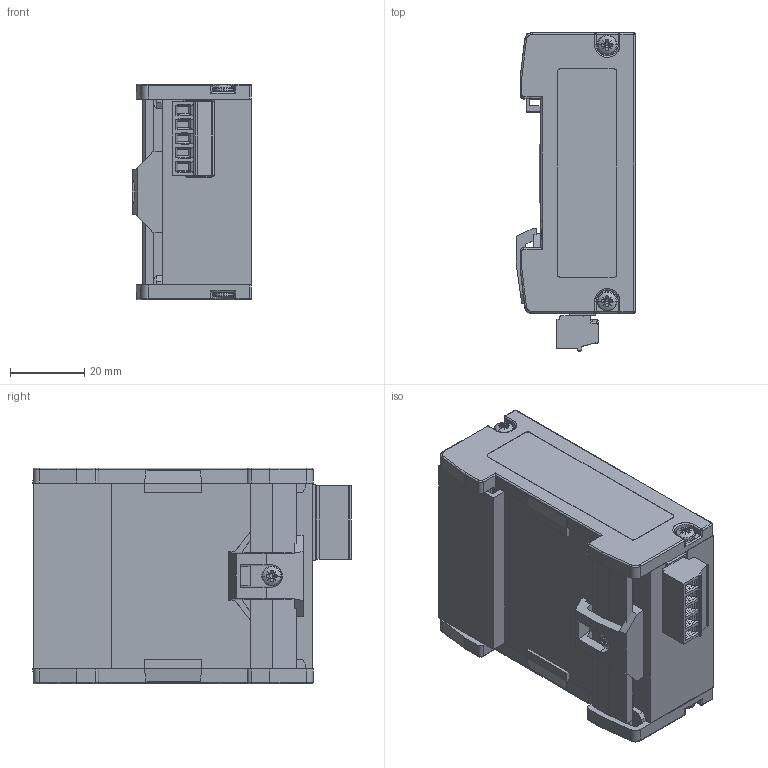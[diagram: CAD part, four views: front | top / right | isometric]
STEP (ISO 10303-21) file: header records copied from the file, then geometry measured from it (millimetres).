
FILE_DESCRIPTION(('FreeCAD Model'),'2;1');
FILE_NAME('C:/Users/bruenen/Desktop/700-875-WAN01 V00.step', '2016-12-14T16:23:39',('Author'),(''), 'Open CASCADE STEP processor 7.0','FreeCAD','Unknown');
FILE_SCHEMA(('AUTOMOTIVE_DESIGN_CC2 { 1 2 10303 214 -1 1 5 4 }'));
Length unit declared in the file: millimetre
Products named in the file (494): ASSEMBLY; Aluprofil_50_mm; SEITEN_002_(Mirror_#1)167; SEITEN_002_(Mirror_#1)142; SEITEN_002_(Mirror_#1)147; SEITEN_002_(Mirror_#1)143; SEITEN_002_(Mirror_#1)146; SEITEN_002_(Mirror_#1)145; HUTSCHIENENCLIP_A001_(Mirror_#2)016; HUTSCHIENENCLIP_A001_(Mirror_#2); HUTSCHIENENCLIP_A001_(Mirror_#2)019; HUTSCHIENENCLIP_A001_(Mirror_#2)017; SEITEN_002_(Mirror_#1)148; HUTSCHIENENCLIP_A001_(Mirror_#2)020; HUTSCHIENENCLIP_A001_(Mirror_#2)018; SEITEN_002_(Mirror_#1)144; HUTSCHIENENCLIP_A001_(Mirror_#2)015; HUTSCHIENENCLIP_A001_(Mirror_#2)014; HUTSCHIENENCLIP_A001_(Mirror_#2)013; SEITEN_002_(Mirror_#1)149; SEITEN_002_(Mirror_#1)150; SEITEN_002_(Mirror_#1)151; SEITEN_002_(Mirror_#1)152; HUTSCHIENENCLIP_A001_(Mirror_#2)012; HUTSCHIENENCLIP_A001_(Mirror_#2)011; HUTSCHIENENCLIP_A001_(Mirror_#2)010; HUTSCHIENENCLIP_A001_(Mirror_#2)009; HUTSCHIENENCLIP_A001_(Mirror_#2)008; HUTSCHIENENCLIP_A001_(Mirror_#2)007; SEITEN_002_(Mirror_#1)153; SEITEN_002_(Mirror_#1)154; SEITEN_002_(Mirror_#1)155; SEITEN_002_(Mirror_#1)156; HUTSCHIENENCLIP_A001_(Mirror_#2)006; HUTSCHIENENCLIP_A001_(Mirror_#2)005; HUTSCHIENENCLIP_A001_(Mirror_#2)004; SEITEN_002_(Mirror_#1)166; SEITEN_002_(Mirror_#1)165; SEITEN_002_(Mirror_#1)164; SEITEN_002_(Mirror_#1)163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
Assembly tree (493 placements, depth 2):
  ASSEMBLY
    Aluprofil_50_mm
    SEITEN_002_(Mirror_#1)167
    SEITEN_002_(Mirror_#1)142
    SEITEN_002_(Mirror_#1)147
    SEITEN_002_(Mirror_#1)143
    SEITEN_002_(Mirror_#1)146
    SEITEN_002_(Mirror_#1)145
    HUTSCHIENENCLIP_A001_(Mirror_#2)016
    HUTSCHIENENCLIP_A001_(Mirror_#2)
    HUTSCHIENENCLIP_A001_(Mirror_#2)019
    HUTSCHIENENCLIP_A001_(Mirror_#2)017
    SEITEN_002_(Mirror_#1)148
    HUTSCHIENENCLIP_A001_(Mirror_#2)020
    HUTSCHIENENCLIP_A001_(Mirror_#2)018
    SEITEN_002_(Mirror_#1)144
    HUTSCHIENENCLIP_A001_(Mirror_#2)015
    HUTSCHIENENCLIP_A001_(Mirror_#2)014
    HUTSCHIENENCLIP_A001_(Mirror_#2)013
    SEITEN_002_(Mirror_#1)149
    SEITEN_002_(Mirror_#1)150
    SEITEN_002_(Mirror_#1)151
    SEITEN_002_(Mirror_#1)152
    HUTSCHIENENCLIP_A001_(Mirror_#2)012
    HUTSCHIENENCLIP_A001_(Mirror_#2)011
    HUTSCHIENENCLIP_A001_(Mirror_#2)010
    HUTSCHIENENCLIP_A001_(Mirror_#2)009
    HUTSCHIENENCLIP_A001_(Mirror_#2)008
    HUTSCHIENENCLIP_A001_(Mirror_#2)007
    SEITEN_002_(Mirror_#1)153
    SEITEN_002_(Mirror_#1)154
    SEITEN_002_(Mirror_#1)155
    SEITEN_002_(Mirror_#1)156
    HUTSCHIENENCLIP_A001_(Mirror_#2)006
    HUTSCHIENENCLIP_A001_(Mirror_#2)005
    HUTSCHIENENCLIP_A001_(Mirror_#2)004
    SEITEN_002_(Mirror_#1)166
    SEITEN_002_(Mirror_#1)165
    SEITEN_002_(Mirror_#1)164
    SEITEN_002_(Mirror_#1)163
    SEITEN_002_(Mirror_#1)157
    SEITEN_002_(Mirror_#1)158
    SEITEN_002_(Mirror_#1)159
    SEITEN_002_(Mirror_#1)160
    SEITEN_002_(Mirror_#1)162
    SEITEN_002_(Mirror_#1)161
    HUTSCHIENENCLIP_A001_(Mirror_#2)003
    HUTSCHIENENCLIP_A001_(Mirror_#2)002
    HUTSCHIENENCLIP_A001_(Mirror_#2)001
    SEITEN_002_(Mirror_#1)122
    SEITEN_002_(Mirror_#1)121
    SEITEN_002_(Mirror_#1)120
    SEITEN_002_(Mirror_#1)128
    SEITEN_002_(Mirror_#1)127
    SEITEN_002_(Mirror_#1)126
    SEITEN_002_(Mirror_#1)063
    SEITEN_002_(Mirror_#1)131
    SEITEN_002_(Mirror_#1)130
    SEITEN_002_(Mirror_#1)129
    SEITEN_002_(Mirror_#1)134
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Bounding box: 32.01 x 85.56 x 58 mm (x, y, z)
Volume: 37757.9 mm3; surface area: 62435 mm2
Topology: 103 solids, 493 shells, 5881 faces, 17674 edges, 12473 vertices
Faces by surface type: plane 3244, cylinder 982, extrusion 777, bspline 473, cone 123, torus 108, revolution 100, sphere 74
Full cylindrical faces by diameter (mm): 2 x2, 2.8 x8
Entity records: 632728 total; most frequent: CARTESIAN_POINT 294828, DIRECTION 47481, ORIENTED_EDGE 32222, PCURVE 32222, DEFINITIONAL_REPRESENTATION 32222, VECTOR 31078, LINE 30301, EDGE_CURVE 17600
